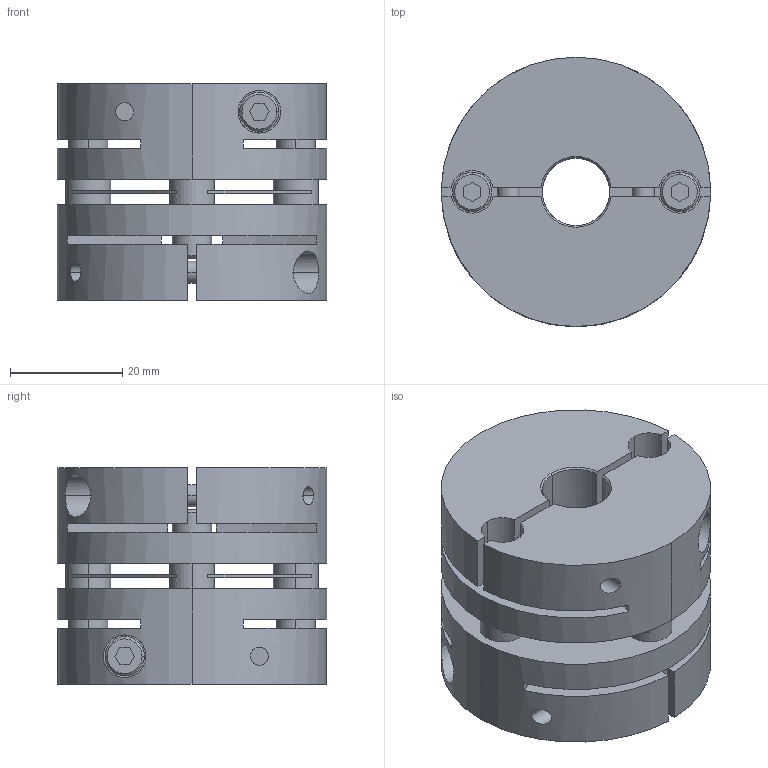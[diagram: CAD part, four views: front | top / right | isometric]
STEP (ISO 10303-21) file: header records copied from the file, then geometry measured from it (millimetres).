
FILE_DESCRIPTION((''),'2;1');
FILE_NAME('LAS-48C-12×14.stp','2013-06-12T09:36:33',(''),(''),'AutoCAD STEP 2000i','AutoCAD 2000i',', , ');
FILE_SCHEMA(('CONFIG_CONTROL_DESIGN'));
Length unit declared in the file: millimetre
Products named in the file (5): LAS-48C-12×12; 忣兜1; LA-4802-D12-1; LA-4802-D12; LAS48-ITA
Assembly tree (4 placements, depth 2):
  LAS-48C-12×12
    忣兜1
    LA-4802-D12-1
    LA-4802-D12
    LAS48-ITA
Bounding box: 48 x 48 x 38.6 mm (x, y, z)
Volume: 51112.3 mm3; surface area: 22665.8 mm2
Topology: 1 solids, 1 shells, 224 faces, 588 edges, 384 vertices
Faces by surface type: plane 112, cylinder 84, cone 28
Entity records: 7607 total; most frequent: CARTESIAN_POINT 1713, DIRECTION 1250, ORIENTED_EDGE 1176, EDGE_CURVE 588, AXIS2_PLACEMENT_3D 457, VERTEX_POINT 384, VECTOR 336, LINE 336
